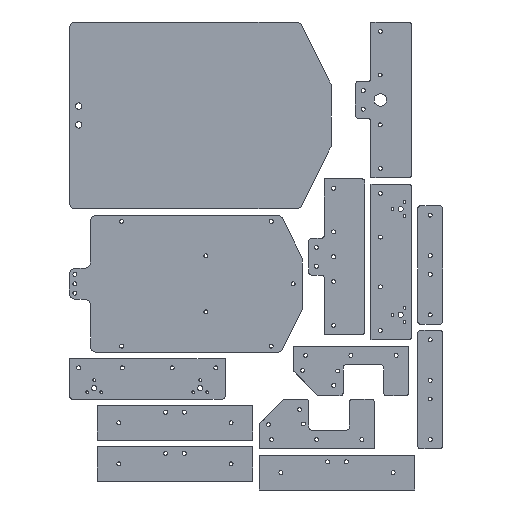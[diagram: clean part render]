
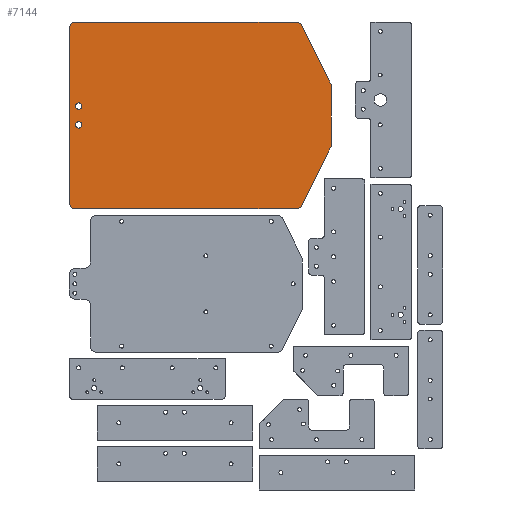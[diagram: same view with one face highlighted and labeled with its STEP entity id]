
A CAD part, front view. The second image highlights one B-rep face of the part: STEP entity #7144.
In plain terms, the highlighted planar face has unit normal (0, -1, 0).
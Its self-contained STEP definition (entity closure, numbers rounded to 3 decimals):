
#342=FACE_BOUND('',#1748,.T.);
#343=FACE_BOUND('',#1749,.T.);
#644=CIRCLE('',#7952,5.25);
#646=CIRCLE('',#7955,5.25);
#654=CIRCLE('',#7969,10.);
#655=CIRCLE('',#7970,10.);
#656=CIRCLE('',#7971,10.);
#657=CIRCLE('',#7972,10.);
#658=CIRCLE('',#7973,10.);
#659=CIRCLE('',#7974,10.);
#1197=FACE_OUTER_BOUND('',#1747,.T.);
#1747=EDGE_LOOP('',(#6264,#6265,#6266,#6267,#6268,#6269,#6270,#6271,#6272,
#6273,#6274,#6275));
#1748=EDGE_LOOP('',(#6276));
#1749=EDGE_LOOP('',(#6277));
#2326=LINE('',#12051,#2928);
#2330=LINE('',#12060,#2932);
#2336=LINE('',#12073,#2938);
#2338=LINE('',#12078,#2940);
#2344=LINE('',#12101,#2946);
#2345=LINE('',#12106,#2947);
#2928=VECTOR('',#9761,1000.);
#2932=VECTOR('',#9767,1000.);
#2938=VECTOR('',#9775,1000.);
#2940=VECTOR('',#9779,1000.);
#2946=VECTOR('',#9803,1000.);
#2947=VECTOR('',#9808,1000.);
#3572=VERTEX_POINT('',#12037);
#3574=VERTEX_POINT('',#12043);
#3576=VERTEX_POINT('',#12049);
#3577=VERTEX_POINT('',#12050);
#3580=VERTEX_POINT('',#12058);
#3581=VERTEX_POINT('',#12059);
#3586=VERTEX_POINT('',#12070);
#3587=VERTEX_POINT('',#12072);
#3588=VERTEX_POINT('',#12076);
#3589=VERTEX_POINT('',#12077);
#3596=VERTEX_POINT('',#12098);
#3597=VERTEX_POINT('',#12100);
#3598=VERTEX_POINT('',#12103);
#3599=VERTEX_POINT('',#12105);
#4482=EDGE_CURVE('',#3572,#3572,#644,.T.);
#4485=EDGE_CURVE('',#3574,#3574,#646,.T.);
#4488=EDGE_CURVE('',#3576,#3577,#2326,.T.);
#4492=EDGE_CURVE('',#3580,#3581,#2330,.T.);
#4498=EDGE_CURVE('',#3586,#3587,#2336,.T.);
#4500=EDGE_CURVE('',#3588,#3589,#2338,.T.);
#4512=EDGE_CURVE('',#3586,#3596,#654,.T.);
#4513=EDGE_CURVE('',#3596,#3597,#2344,.T.);
#4514=EDGE_CURVE('',#3597,#3581,#655,.T.);
#4515=EDGE_CURVE('',#3580,#3598,#656,.T.);
#4516=EDGE_CURVE('',#3598,#3599,#2345,.T.);
#4517=EDGE_CURVE('',#3599,#3577,#657,.T.);
#4518=EDGE_CURVE('',#3576,#3589,#658,.T.);
#4519=EDGE_CURVE('',#3588,#3587,#659,.T.);
#6264=ORIENTED_EDGE('',*,*,#4498,.F.);
#6265=ORIENTED_EDGE('',*,*,#4512,.T.);
#6266=ORIENTED_EDGE('',*,*,#4513,.T.);
#6267=ORIENTED_EDGE('',*,*,#4514,.T.);
#6268=ORIENTED_EDGE('',*,*,#4492,.F.);
#6269=ORIENTED_EDGE('',*,*,#4515,.T.);
#6270=ORIENTED_EDGE('',*,*,#4516,.T.);
#6271=ORIENTED_EDGE('',*,*,#4517,.T.);
#6272=ORIENTED_EDGE('',*,*,#4488,.F.);
#6273=ORIENTED_EDGE('',*,*,#4518,.T.);
#6274=ORIENTED_EDGE('',*,*,#4500,.F.);
#6275=ORIENTED_EDGE('',*,*,#4519,.T.);
#6276=ORIENTED_EDGE('',*,*,#4482,.T.);
#6277=ORIENTED_EDGE('',*,*,#4485,.T.);
#6795=PLANE('',#7968);
#7144=ADVANCED_FACE('',(#1197,#342,#343),#6795,.F.);
#7952=AXIS2_PLACEMENT_3D('',#12038,#9747,#9748);
#7955=AXIS2_PLACEMENT_3D('',#12044,#9754,#9755);
#7968=AXIS2_PLACEMENT_3D('',#12097,#9799,#9800);
#7969=AXIS2_PLACEMENT_3D('',#12099,#9801,#9802);
#7970=AXIS2_PLACEMENT_3D('',#12102,#9804,#9805);
#7971=AXIS2_PLACEMENT_3D('',#12104,#9806,#9807);
#7972=AXIS2_PLACEMENT_3D('',#12107,#9809,#9810);
#7973=AXIS2_PLACEMENT_3D('',#12108,#9811,#9812);
#7974=AXIS2_PLACEMENT_3D('',#12109,#9813,#9814);
#9747=DIRECTION('center_axis',(0.,1.,0.));
#9748=DIRECTION('ref_axis',(0.,0.,1.));
#9754=DIRECTION('center_axis',(0.,1.,0.));
#9755=DIRECTION('ref_axis',(0.,0.,1.));
#9761=DIRECTION('',(0.,0.,-1.));
#9767=DIRECTION('',(-1.,0.,0.));
#9775=DIRECTION('',(0.,0.,1.));
#9779=DIRECTION('',(1.,0.,0.));
#9799=DIRECTION('center_axis',(0.,1.,0.));
#9800=DIRECTION('ref_axis',(0.,0.,1.));
#9801=DIRECTION('center_axis',(0.,-1.,0.));
#9802=DIRECTION('ref_axis',(0.,0.,1.));
#9803=DIRECTION('',(0.894,0.,-0.447));
#9804=DIRECTION('center_axis',(0.,-1.,0.));
#9805=DIRECTION('ref_axis',(0.,0.,1.));
#9806=DIRECTION('center_axis',(0.,-1.,0.));
#9807=DIRECTION('ref_axis',(0.,0.,1.));
#9808=DIRECTION('',(0.894,0.,0.447));
#9809=DIRECTION('center_axis',(0.,-1.,0.));
#9810=DIRECTION('ref_axis',(0.,0.,1.));
#9811=DIRECTION('center_axis',(0.,-1.,0.));
#9812=DIRECTION('ref_axis',(0.,0.,1.));
#9813=DIRECTION('center_axis',(0.,-1.,0.));
#9814=DIRECTION('ref_axis',(0.,0.,1.));
#12037=CARTESIAN_POINT('',(-15.,0.,189.75));
#12038=CARTESIAN_POINT('Origin',(-15.,0.,195.));
#12043=CARTESIAN_POINT('',(15.,0.,189.75));
#12044=CARTESIAN_POINT('Origin',(15.,0.,195.));
#12049=CARTESIAN_POINT('',(150.,0.,200.));
#12050=CARTESIAN_POINT('',(150.,0.,-153.82));
#12051=CARTESIAN_POINT('',(150.,0.,-210.));
#12058=CARTESIAN_POINT('',(47.639,0.,-210.));
#12059=CARTESIAN_POINT('',(-47.639,0.,-210.));
#12060=CARTESIAN_POINT('',(-150.,0.,-210.));
#12070=CARTESIAN_POINT('',(-150.,0.,-153.82));
#12072=CARTESIAN_POINT('',(-150.,0.,200.));
#12073=CARTESIAN_POINT('',(-150.,0.,-210.));
#12076=CARTESIAN_POINT('',(-140.,0.,210.));
#12077=CARTESIAN_POINT('',(140.,0.,210.));
#12078=CARTESIAN_POINT('',(-150.,0.,210.));
#12097=CARTESIAN_POINT('Origin',(0.,0.,0.));
#12098=CARTESIAN_POINT('',(-144.472,0.,-162.764));
#12099=CARTESIAN_POINT('Origin',(-140.,0.,-153.82));
#12100=CARTESIAN_POINT('',(-52.111,0.,-208.944));
#12101=CARTESIAN_POINT('',(-150.,0.,-160.));
#12102=CARTESIAN_POINT('Origin',(-47.639,0.,-200.));
#12103=CARTESIAN_POINT('',(52.111,0.,-208.944));
#12104=CARTESIAN_POINT('Origin',(47.639,0.,-200.));
#12105=CARTESIAN_POINT('',(144.472,0.,-162.764));
#12106=CARTESIAN_POINT('',(50.,0.,-210.));
#12107=CARTESIAN_POINT('Origin',(140.,0.,-153.82));
#12108=CARTESIAN_POINT('Origin',(140.,0.,200.));
#12109=CARTESIAN_POINT('Origin',(-140.,0.,200.));
